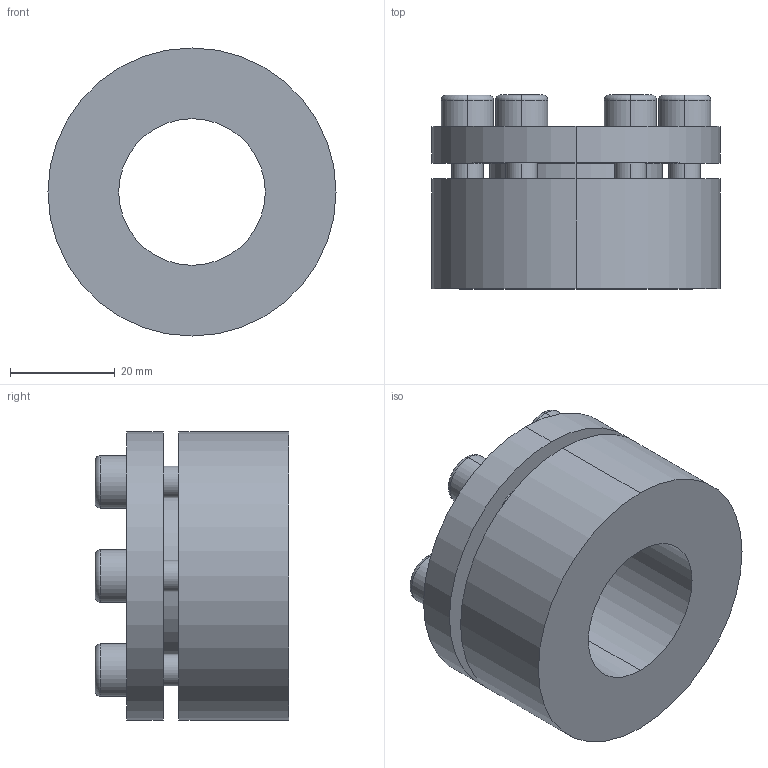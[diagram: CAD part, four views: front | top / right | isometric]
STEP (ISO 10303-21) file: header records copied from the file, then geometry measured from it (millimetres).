
FILE_DESCRIPTION (( 'STEP AP203' ), '1' );
FILE_NAME ('PL-H1 28-55.STEP', '2021-10-23T00:53:27', ( '' ), ( '' ), 'SwSTEP 2.0', 'SolidWorks 2018', '' );
FILE_SCHEMA (( 'CONFIG_CONTROL_DESIGN' ));
Length unit declared in the file: millimetre
Products named in the file (1): PL-H1 28-55
Bounding box: 55 x 37 x 55 mm (x, y, z)
Volume: 52908.8 mm3; surface area: 15796.4 mm2
Topology: 1 solids, 1 shells, 96 faces, 228 edges, 148 vertices
Faces by surface type: plane 52, cylinder 32, torus 12
Entity records: 2889 total; most frequent: DIRECTION 510, CARTESIAN_POINT 473, ORIENTED_EDGE 456, EDGE_CURVE 228, AXIS2_PLACEMENT_3D 185, VERTEX_POINT 148, VECTOR 140, LINE 140
